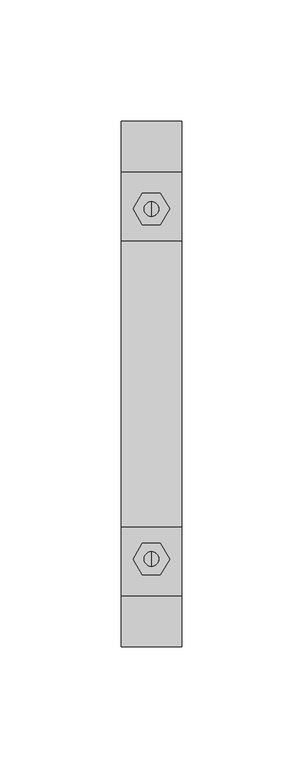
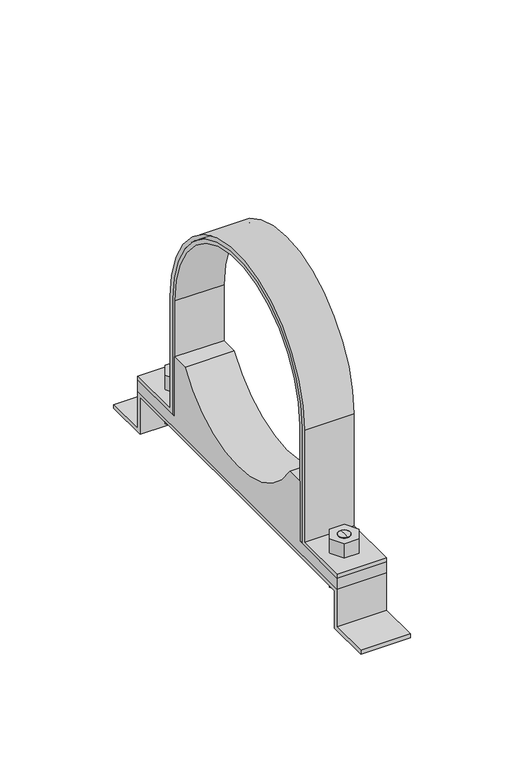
"""IFC4 building model written with IfcOpenShell, lengths in millimetres: valve geometry, Superfix DG3 Clamp (based on pipe) : Superfix DG3 Clamp (based on pipe)."""

from ifc_helpers import new_model, si_unit, point, frame, frame_2d, origin, place, context, project, spatial, polyline, circle_curve, trimmed, segment, composite_curve, outline, extrude, source, transform, mapped, element, save
from ifc_brep_helpers import plane_surface, cylinder_surface, advanced_brep


def valve_86fbe129(model_context):
    return source(origin(), model_context, "Body", "SolidModel", [
        advanced_brep(
        [(0.0, 75.25, 7.0), (0.0, 69.25, 7.0), (0.0, 69.25, 20.0), (0.0, 75.25, 20.0), (0.0, 72.25, 7.0)],
        [
            (0, 1, circle_curve(frame((0.0, 72.25, 7.0), z_axis=(0.0, 0.0, 1.0), x_axis=(0.0, 1.0, 0.0)), 3.0)),
            (1, 2),
            (2, 3, circle_curve(frame((0.0, 72.25, 20.0), z_axis=(0.0, 0.0, -1.0), x_axis=(0.0, 1.0, 0.0)), 3.0)),
            (3, 0),
            (1, 0, circle_curve(frame((0.0, 72.25, 7.0), z_axis=(0.0, 0.0, 1.0), x_axis=(0.0, 1.0, 0.0)), 3.0)),
            (3, 2, circle_curve(frame((0.0, 72.25, 20.0), z_axis=(0.0, 0.0, -1.0), x_axis=(0.0, 1.0, 0.0)), 3.0)),
            (0, 4),
            (4, 1),
        ],
        [
            cylinder_surface(frame((0.0, 72.25, 88.2806094), z_axis=(0.0, 0.0, 1.0), x_axis=(0.0, 1.0, 0.0)), 3.0),
            plane_surface(frame((0.0, 72.25, 7.0), z_axis=(0.0, 0.0, -1.0), x_axis=(0.0, 1.0, 0.0))),
            plane_surface(frame((13.75, -87.5, 20.0), z_axis=(0.0, 0.0, 1.0), x_axis=(-1.0, 0.0, 0.0))),
        ],
        [
            (0, [[1, 2, 3, 4]]),
            (0, [[5, -4, 6, -2]]),
            (1, [[-1, 7, 8]]),
            (1, [[-5, -8, -7]]),
            (2, [[-3, -6]]),
        ],
    ),
        advanced_brep(
        [(0.0, 69.25, 38.0), (0.0, 75.25, 38.0), (0.0, 75.25, 28.0), (0.0, 69.25, 28.0), (0.0, 72.25, 38.0)],
        [
            (0, 1, circle_curve(frame((0.0, 72.25, 38.0), z_axis=(0.0, 0.0, -1.0), x_axis=(0.0, 1.0, 0.0)), 3.0)),
            (1, 2),
            (2, 3, circle_curve(frame((0.0, 72.25, 28.0), z_axis=(0.0, 0.0, 1.0), x_axis=(0.0, 1.0, 0.0)), 3.0)),
            (3, 0),
            (1, 0, circle_curve(frame((0.0, 72.25, 38.0), z_axis=(0.0, 0.0, -1.0), x_axis=(0.0, 1.0, 0.0)), 3.0)),
            (3, 2, circle_curve(frame((0.0, 72.25, 28.0), z_axis=(0.0, 0.0, 1.0), x_axis=(0.0, 1.0, 0.0)), 3.0)),
            (0, 4),
            (4, 1),
        ],
        [
            cylinder_surface(frame((0.0, 72.25, 88.2806094), z_axis=(0.0, 0.0, 1.0), x_axis=(0.0, 1.0, 0.0)), 3.0),
            plane_surface(frame((0.0, 72.25, 38.0), z_axis=(0.0, 0.0, 1.0), x_axis=(0.0, 1.0, 0.0))),
            plane_surface(frame((13.75, 87.5, 28.0), z_axis=(0.0, 0.0, -1.0), x_axis=(-1.0, 0.0, 0.0))),
        ],
        [
            (0, [[1, 2, 3, 4]]),
            (0, [[5, -4, 6, -2]]),
            (1, [[-1, 7, 8]]),
            (1, [[-5, -8, -7]]),
            (2, [[-3, -6]]),
        ],
    ),
        advanced_brep(
        [(0.0, -75.25, 38.0), (0.0, -69.25, 38.0), (0.0, -69.25, 28.0), (0.0, -75.25, 28.0), (0.0, -72.25, 38.0)],
        [
            (0, 1, circle_curve(frame((0.0, -72.25, 38.0), z_axis=(0.0, 0.0, -1.0), x_axis=(0.0, -1.0, 0.0)), 3.0)),
            (1, 2),
            (2, 3, circle_curve(frame((0.0, -72.25, 28.0), z_axis=(0.0, 0.0, 1.0), x_axis=(0.0, -1.0, 0.0)), 3.0)),
            (3, 0),
            (1, 0, circle_curve(frame((0.0, -72.25, 38.0), z_axis=(0.0, 0.0, -1.0), x_axis=(0.0, -1.0, 0.0)), 3.0)),
            (3, 2, circle_curve(frame((0.0, -72.25, 28.0), z_axis=(0.0, 0.0, 1.0), x_axis=(0.0, -1.0, 0.0)), 3.0)),
            (0, 4),
            (4, 1),
        ],
        [
            cylinder_surface(frame((0.0, -72.25, 88.2806094), z_axis=(0.0, 0.0, -1.0), x_axis=(0.0, -1.0, 0.0)), 3.0),
            plane_surface(frame((0.0, -72.25, 38.0), z_axis=(0.0, 0.0, 1.0), x_axis=(0.0, -1.0, 0.0))),
            plane_surface(frame((13.75, 87.5, 28.0), z_axis=(0.0, 0.0, -1.0), x_axis=(-1.0, 0.0, 0.0))),
        ],
        [
            (0, [[1, 2, 3, 4]]),
            (0, [[5, -4, 6, -2]]),
            (1, [[-1, 7, 8]]),
            (1, [[-5, -8, -7]]),
            (2, [[-3, -6]]),
        ],
    ),
        advanced_brep(
        [(0.0, -69.25, 7.0), (0.0, -75.25, 7.0), (0.0, -75.25, 20.0), (0.0, -69.25, 20.0), (0.0, -72.25, 7.0)],
        [
            (0, 1, circle_curve(frame((0.0, -72.25, 7.0), z_axis=(0.0, 0.0, 1.0), x_axis=(0.0, -1.0, 0.0)), 3.0)),
            (1, 2),
            (2, 3, circle_curve(frame((0.0, -72.25, 20.0), z_axis=(0.0, 0.0, -1.0), x_axis=(0.0, -1.0, 0.0)), 3.0)),
            (3, 0),
            (1, 0, circle_curve(frame((0.0, -72.25, 7.0), z_axis=(0.0, 0.0, 1.0), x_axis=(0.0, -1.0, 0.0)), 3.0)),
            (3, 2, circle_curve(frame((0.0, -72.25, 20.0), z_axis=(0.0, 0.0, -1.0), x_axis=(0.0, -1.0, 0.0)), 3.0)),
            (0, 4),
            (4, 1),
        ],
        [
            cylinder_surface(frame((0.0, -72.25, 88.2806094), z_axis=(0.0, 0.0, -1.0), x_axis=(0.0, -1.0, 0.0)), 3.0),
            plane_surface(frame((0.0, -72.25, 7.0), z_axis=(0.0, 0.0, -1.0), x_axis=(0.0, -1.0, 0.0))),
            plane_surface(frame((13.75, -87.5, 20.0), z_axis=(0.0, 0.0, 1.0), x_axis=(-1.0, 0.0, 0.0))),
        ],
        [
            (0, [[1, 2, 3, 4]]),
            (0, [[5, -4, 6, -2]]),
            (1, [[-1, 7, 8]]),
            (1, [[-5, -8, -7]]),
            (2, [[-3, -6]]),
        ],
    ),
        extrude(outline(composite_curve([segment(trimmed(circle_curve(frame_2d((0.0, 90.0)), 57.0), [point((57.0, 90.0))], [point((-57.0, 90.0))], True, "CARTESIAN"), True, "CONTINUOUS"), segment(polyline([(-57.0, 90.0), (-57.0, 28.0), (-87.5, 28.0), (-87.5, 30.0), (-59.0, 30.0), (-59.0, 90.0)]), True, "CONTINUOUS"), segment(trimmed(circle_curve(frame_2d((0.0, 90.0)), 59.0), [point((-59.0, 90.0))], [point((59.0, 90.0))], False, "CARTESIAN"), True, "CONTINUOUS"), segment(polyline([(59.0, 90.0), (59.0, 30.0), (87.5, 30.0), (87.5, 28.0), (57.0, 28.0), (57.0, 90.0)]), True, "CONTINUOUS")], self_intersect=False)), frame((-12.5, 0.0, 0.0), z_axis=(1.0, 0.0, 0.0), x_axis=(0.0, 1.0, 0.0)), (0.0, 0.0, 1.0), 25.0),
        extrude(outline(polyline([(7.5055535, -72.25), (3.7527767, -78.75), (-3.7527767, -78.75), (-7.5055535, -72.25), (-3.7527767, -65.75), (3.7527767, -65.75), (7.5055535, -72.25)]), holes=[composite_curve([segment(trimmed(circle_curve(frame_2d((0.0, -72.25)), 3.0), [point((3.0, -72.25))], [point((-3.0, -72.25))], True, "CARTESIAN"), True, "CONTINUOUS"), segment(trimmed(circle_curve(frame_2d((0.0, -72.25)), 3.0), [point((-3.0, -72.25))], [point((3.0, -72.25))], True, "CARTESIAN"), True, "CONTINUOUS")], self_intersect=False)]), frame((0.0, 0.0, 30.0), z_axis=(0.0, 0.0, 1.0), x_axis=(1.0, 0.0, 0.0)), (0.0, 0.0, 1.0), 8.0),
        extrude(outline(polyline([(7.5055535, 72.25), (3.7527767, 65.75), (-3.7527767, 65.75), (-7.5055535, 72.25), (-3.7527767, 78.75), (3.7527767, 78.75), (7.5055535, 72.25)]), holes=[composite_curve([segment(trimmed(circle_curve(frame_2d((0.0, 72.25)), 3.0), [point((3.0, 72.25))], [point((-3.0, 72.25))], True, "CARTESIAN"), True, "CONTINUOUS"), segment(trimmed(circle_curve(frame_2d((0.0, 72.25)), 3.0), [point((-3.0, 72.25))], [point((3.0, 72.25))], True, "CARTESIAN"), True, "CONTINUOUS")], self_intersect=False)]), frame((0.0, 0.0, 30.0), z_axis=(0.0, 0.0, 1.0), x_axis=(1.0, 0.0, 0.0)), (0.0, 0.0, 1.0), 8.0),
        extrude(outline(polyline([(7.5055535, -72.25), (3.7527767, -78.75), (-3.7527767, -78.75), (-7.5055535, -72.25), (-3.7527767, -65.75), (3.7527767, -65.75), (7.5055535, -72.25)]), holes=[composite_curve([segment(trimmed(circle_curve(frame_2d((0.0, -72.25)), 3.0), [point((3.0, -72.25))], [point((-3.0, -72.25))], True, "CARTESIAN"), True, "CONTINUOUS"), segment(trimmed(circle_curve(frame_2d((0.0, -72.25)), 3.0), [point((-3.0, -72.25))], [point((3.0, -72.25))], True, "CARTESIAN"), True, "CONTINUOUS")], self_intersect=False)]), frame((0.0, 0.0, 12.0), z_axis=(0.0, 0.0, 1.0), x_axis=(1.0, 0.0, 0.0)), (0.0, 0.0, 1.0), 8.0),
        extrude(outline(polyline([(7.5055535, 72.25), (3.7527767, 65.75), (-3.7527767, 65.75), (-7.5055535, 72.25), (-3.7527767, 78.75), (3.7527767, 78.75), (7.5055535, 72.25)]), holes=[composite_curve([segment(trimmed(circle_curve(frame_2d((0.0, 72.25)), 3.0), [point((3.0, 72.25))], [point((-3.0, 72.25))], True, "CARTESIAN"), True, "CONTINUOUS"), segment(trimmed(circle_curve(frame_2d((0.0, 72.25)), 3.0), [point((-3.0, 72.25))], [point((3.0, 72.25))], True, "CARTESIAN"), True, "CONTINUOUS")], self_intersect=False)]), frame((0.0, 0.0, 12.0), z_axis=(0.0, 0.0, 1.0), x_axis=(1.0, 0.0, 0.0)), (0.0, 0.0, 1.0), 8.0),
        extrude(outline(composite_curve([segment(polyline([(-87.5, 22.0), (-87.5, 28.0), (-55.0, 28.0), (-55.0, 60.0), (-46.0977223, 60.0)]), True, "CONTINUOUS"), segment(trimmed(circle_curve(frame_2d((0.0, 90.0)), 55.0), [point((-46.0977223, 60.0))], [point((46.0977223, 60.0))], True, "CARTESIAN"), True, "CONTINUOUS"), segment(polyline([(46.0977223, 60.0), (55.0, 60.0), (55.0, 28.0), (87.5, 28.0), (87.5, 22.0), (-87.5, 22.0)]), True, "CONTINUOUS")], self_intersect=False)), frame((-12.5, 0.0, 0.0), z_axis=(1.0, 0.0, 0.0), x_axis=(0.0, 1.0, 0.0)), (0.0, 0.0, 1.0), 25.0),
        extrude(outline(polyline([(-108.5, 2.0), (-87.5, 2.0), (-87.5, 22.0), (0.0, 22.0), (87.5, 22.0), (87.5, 2.0), (108.5, 2.0), (108.5, 0.0), (85.5, 0.0), (85.5, 20.0), (0.0, 20.0), (-85.5, 20.0), (-85.5, 0.0), (-108.5, 0.0), (-108.5, 2.0)])), frame((-12.5, 0.0, 0.0), z_axis=(1.0, 0.0, 0.0), x_axis=(0.0, 1.0, 0.0)), (0.0, 0.0, 1.0), 25.0),
        extrude(outline(composite_curve([segment(trimmed(circle_curve(frame_2d((0.0, 90.0)), 55.0), [point((55.0, 90.0))], [point((-55.0, 90.0))], True, "CARTESIAN"), True, "CONTINUOUS"), segment(polyline([(-55.0, 90.0), (-55.0, 28.0), (-57.0, 28.0), (-57.0, 90.0)]), True, "CONTINUOUS"), segment(trimmed(circle_curve(frame_2d((0.0, 90.0)), 57.0), [point((-57.0, 90.0))], [point((57.0, 90.0))], False, "CARTESIAN"), True, "CONTINUOUS"), segment(polyline([(57.0, 90.0), (57.0, 28.0), (55.0, 28.0), (55.0, 90.0)]), True, "CONTINUOUS")], self_intersect=False)), frame((-12.5, 0.0, 0.0), z_axis=(1.0, 0.0, 0.0), x_axis=(0.0, 1.0, 0.0)), (0.0, 0.0, 1.0), 25.0),
    ])


if __name__ == "__main__":
    model = new_model("IFC4")
    model_context = context("Model", 3, world=origin())
    ifc_project = project(units=[si_unit("LENGTHUNIT", "METRE", prefix="MILLI")], contexts=[model_context])
    site = spatial("IfcSite", under=ifc_project)
    building = spatial("IfcBuilding", under=site)
    placement = place(None, origin())
    valve_shape = valve_86fbe129(model_context)
    element("IfcValve", 1, ObjectType="Superfix DG3 Clamp (based on pipe) : Superfix DG3 Clamp (based on pipe)", at=placement, inside=building, context=model_context, shape_type="MappedRepresentation", body=[
        mapped(valve_shape, transform((0.0, 0.0, 0.0), x_axis=(1.0, 0.0, 0.0), y_axis=(0.0, 1.0, 0.0), z_axis=(0.0, 0.0, 1.0))),
    ])
    save(model, "model.ifc")
